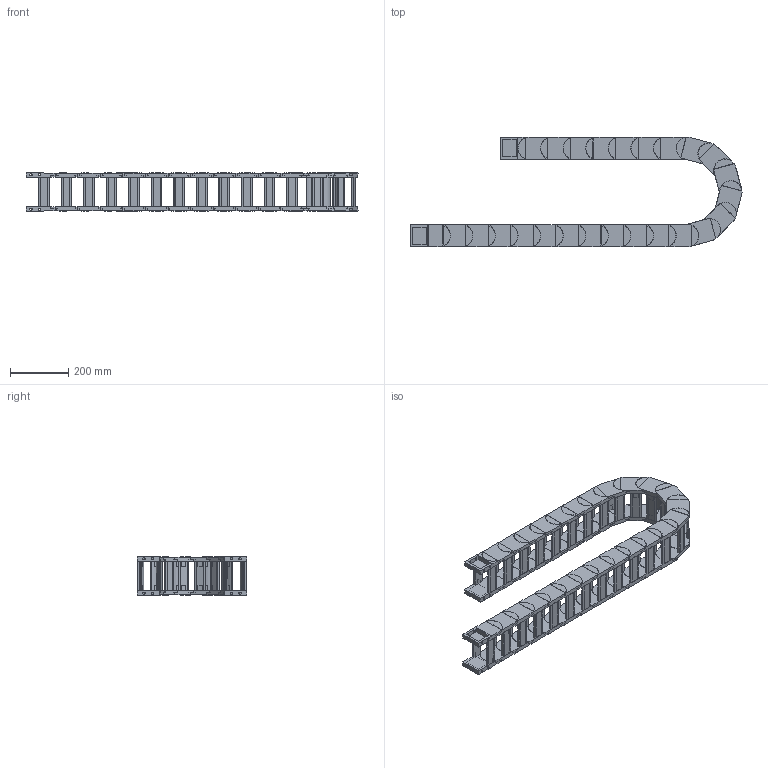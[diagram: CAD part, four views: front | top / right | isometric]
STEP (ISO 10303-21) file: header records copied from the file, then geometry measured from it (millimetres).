
FILE_DESCRIPTION((''),'2;1');
FILE_NAME('HD55-R150-ZPT_ASM','2022-06-17T19:24:10',('admin'),(''),'CREO PARAMETRIC BY PTC INC, 2021164','CREO PARAMETRIC BY PTC INC, 2021164','');
FILE_SCHEMA(('CONFIG_CONTROL_DESIGN','GEOMETRIC_VALIDATION_PROPERTIES_MIM'));
Length unit declared in the file: millimetre
Products named in the file (6): HD-55; 55-500001; HD55_ASM; H55-T1; H55-T2; HD55-R150-ZPT_ASM
Assembly tree (30 placements, depth 3):
  HD55-R150-ZPT_ASM
    HD55_ASM  x24
      HD-55
      55-500001
    H55-T1
    H55-T2
    55-500001  x2
Bounding box: 1139.56 x 376 x 132.5 mm (x, y, z)
Volume: 6133169.3 mm3; surface area: 1912355.6 mm2
Topology: 104 solids, 104 shells, 1726 faces, 4430 edges, 3020 vertices
Faces by surface type: plane 1424, cylinder 302
Entity records: 8783 total; most frequent: CARTESIAN_POINT 1296, DIRECTION 1258, ORIENTED_EDGE 1172, EDGE_CURVE 586, AXIS2_PLACEMENT_3D 420, VECTOR 418, LINE 418, VERTEX_POINT 396
